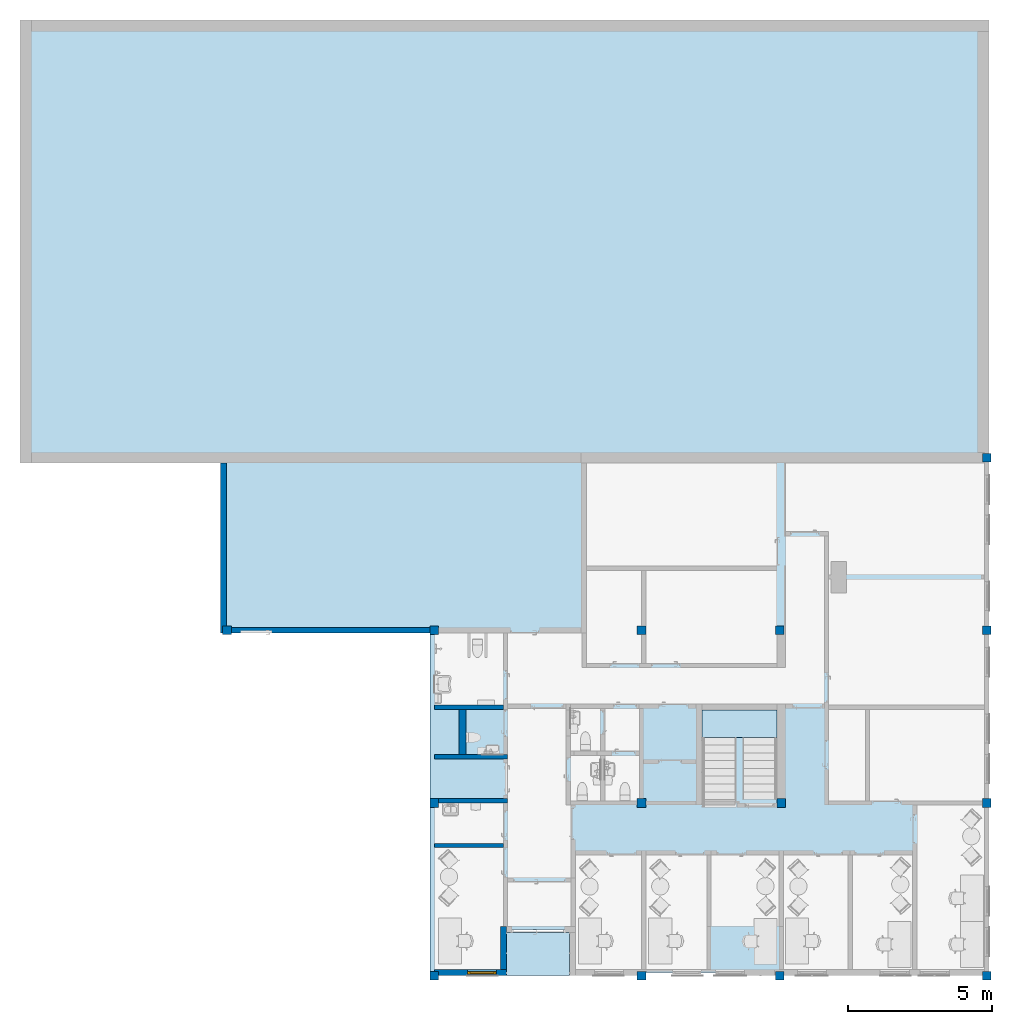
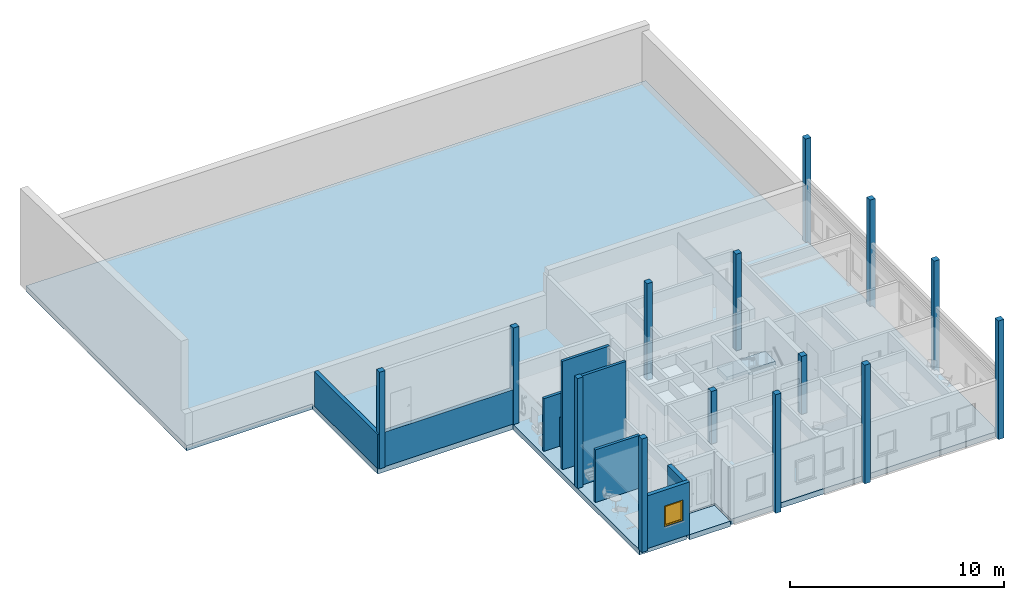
# One storey, part 1 of 58: 14 columns, 9 walls, 3 slabs, 1 window, 3 openings, 1 element without a shape of its own.
"""IFC2X3 building model written with IfcOpenShell, lengths in millimetres."""

import ifcopenshell
import ifcopenshell.guid

model = None  # the IFC model being written
_history = None  # IfcOwnerHistory: only IFC2X3 demands one
_inside = {}  # id of a spatial element -> (the spatial element, [elements in it])
_under = {}  # id of a project, library or spatial element -> (it, [spatial elements below it])
_declared = {}  # id of a project -> (the project, [libraries it declares])
_typed = {}  # id of a type object -> (the type object, [elements of that type])
_made_of = {}  # id of a material, layer set ... -> (it, [elements and type objects made of it])


def new_model(schema):
    """Start an empty IFC model of exactly this schema.

    Asked for "IFC4X3", IfcOpenShell would pick the latest addendum, in which some entities
    have other attributes; the version numbers below select the first issue.
    IFC2X3 requires an IfcOwnerHistory on every rooted entity: one is made here for all.
    """
    global model, _history
    if schema == "IFC4X3":
        model = ifcopenshell.file(schema_version=(4, 3, 0, 0))
    else:
        model = ifcopenshell.file(schema=schema)
    _inside.clear()
    _under.clear()
    _declared.clear()
    _typed.clear()
    _made_of.clear()
    _history = None
    if model.schema == "IFC2X3":
        org = make("IfcOrganization", Name="unknown")
        user = make(
            "IfcPersonAndOrganization",
            ThePerson=make("IfcPerson", FamilyName="unknown"),
            TheOrganization=org,
        )
        app = make(
            "IfcApplication",
            ApplicationDeveloper=org,
            Version="unknown",
            ApplicationFullName="unknown",
            ApplicationIdentifier="unknown",
        )
        _history = make(
            "IfcOwnerHistory",
            OwningUser=user,
            OwningApplication=app,
            ChangeAction="ADDED",
            CreationDate=0,
        )
    return model


def make(cls, **values):
    """One entity of the class cls with the attributes given. An attribute that is None is left unset."""
    return model.create_entity(
        cls, **{name: value for name, value in values.items() if value is not None}
    )


def entity(cls, *values):
    """Any entity or typed value of the class cls, its attributes in the order of the schema. None: left unset."""
    e = model.create_entity(cls)
    for i, value in enumerate(values):
        if value is not None:
            e[i] = value
    return e


def rooted(cls, **values):
    """An entity with a GlobalId (a new one), such as an element, a storey or a relation."""
    return make(cls, GlobalId=ifcopenshell.guid.new(), OwnerHistory=_history, **values)


def si_unit(unit_type, name, prefix=None):
    """IfcSIUnit, for example si_unit("LENGTHUNIT", "METRE", prefix="MILLI")."""
    return make("IfcSIUnit", UnitType=unit_type, Prefix=prefix, Name=name)


def converted_unit(unit_type, name, factor, base, dimensions=None, offset=None):
    """IfcConversionBasedUnit, such as the inch: factor (a typed value) times the base unit."""
    return make(
        "IfcConversionBasedUnit"
        if offset is None
        else "IfcConversionBasedUnitWithOffset",
        ConversionOffset=offset,
        Dimensions=None
        if dimensions is None
        else entity("IfcDimensionalExponents", *dimensions),
        UnitType=unit_type,
        Name=name,
        ConversionFactor=make(
            "IfcMeasureWithUnit", ValueComponent=factor, UnitComponent=base
        ),
    )


def derived_unit(unit_type, elements):
    """IfcDerivedUnit: a product of units, each with its exponent."""
    return make(
        "IfcDerivedUnit",
        Elements=[
            make("IfcDerivedUnitElement", Unit=unit, Exponent=power)
            for unit, power in elements
        ],
        UnitType=unit_type,
    )


def assignment(units):
    """IfcUnitAssignment: the units of a project."""
    return None if units is None else make("IfcUnitAssignment", Units=units)


def point(xyz):
    """IfcCartesianPoint."""
    return None if xyz is None else make("IfcCartesianPoint", Coordinates=xyz)


def direction(xyz):
    """IfcDirection."""
    return None if xyz is None else make("IfcDirection", DirectionRatios=xyz)


def frame(location, z_axis=None, x_axis=None):
    """IfcAxis2Placement3D, a coordinate frame: its origin and axes. An axis left out is left unset."""
    return make(
        "IfcAxis2Placement3D",
        Location=point(location),
        Axis=direction(z_axis),
        RefDirection=direction(x_axis),
    )


def frame_2d(location, x_axis=None):
    """IfcAxis2Placement2D, a coordinate frame in the plane: its origin and x axis."""
    return make(
        "IfcAxis2Placement2D", Location=point(location), RefDirection=direction(x_axis)
    )


def origin():
    """The frame at (0, 0, 0) with its axes left unset."""
    return frame((0.0, 0.0, 0.0))


def origin_2d_with_axis():
    """The frame at (0, 0) in the plane with the x axis (1, 0) written out."""
    return frame_2d((0.0, 0.0), x_axis=(1.0, 0.0))


def place(relative_to, where):
    """IfcLocalPlacement: puts the frame where relative to a parent placement (None: the world)."""
    return make(
        "IfcLocalPlacement", PlacementRelTo=relative_to, RelativePlacement=where
    )


def context(
    kind, dimensions, precision=None, world=None, true_north=None, identifier=None
):
    """IfcGeometricRepresentationContext, for example the 3D "Model" context."""
    return make(
        "IfcGeometricRepresentationContext",
        ContextIdentifier=identifier,
        ContextType=kind,
        CoordinateSpaceDimension=dimensions,
        Precision=precision,
        WorldCoordinateSystem=world,
        TrueNorth=true_north,
    )


def subcontext(parent, identifier, kind, view, scale=None):
    """IfcGeometricRepresentationSubContext, for example "Body" below "Model"."""
    return make(
        "IfcGeometricRepresentationSubContext",
        ContextIdentifier=identifier,
        ContextType=kind,
        ParentContext=parent,
        TargetScale=scale,
        TargetView=view,
    )


def project(units=None, contexts=None):
    """IfcProject with its units and contexts."""
    return rooted(
        "IfcProject",
        Name="project",
        RepresentationContexts=contexts,
        UnitsInContext=assignment(units),
    )


def spatial(cls, under=None, at=None, **own):
    """A site, building, storey or space (cls), placed at a placement, below another one or the project."""
    s = rooted(cls, ObjectPlacement=at, **own)
    if under is not None:
        _under.setdefault(under.id(), (under, []))[1].append(s)
    return s


def polyline(points):
    """IfcPolyline through the points."""
    return make("IfcPolyline", Points=[point(p) for p in points])


def profile(cls, at=None, kind="AREA", **sizes):
    """A parametric profile (cls). Its sizes go by their IFC names, for example OverallWidth=200.0."""
    return make(cls, ProfileType=kind, Position=at, **sizes)


def rectangle(**sizes):
    """IfcRectangleProfileDef."""
    return profile("IfcRectangleProfileDef", **sizes)


def outline(outer, holes=None, kind="AREA"):
    """IfcArbitraryClosedProfileDef: a profile drawn as a closed curve; with holes, ...WithVoids."""
    if holes is None:
        return make("IfcArbitraryClosedProfileDef", ProfileType=kind, OuterCurve=outer)
    return make(
        "IfcArbitraryProfileDefWithVoids",
        ProfileType=kind,
        OuterCurve=outer,
        InnerCurves=holes,
    )


def extrude(swept, where, along, depth):
    """IfcExtrudedAreaSolid: the profile swept, set in the frame where, extruded along a direction by depth."""
    return make(
        "IfcExtrudedAreaSolid",
        SweptArea=swept,
        Position=where,
        ExtrudedDirection=direction(along),
        Depth=depth,
    )


def clip(a, b, op="DIFFERENCE"):
    """IfcBooleanClippingResult: the solid a cut by the half space b."""
    return make(
        "IfcBooleanClippingResult", Operator=op, FirstOperand=a, SecondOperand=b
    )


def bounded_halfspace(plane, agree, where, boundary):
    """IfcPolygonalBoundedHalfSpace: a half space limited to a polygon's prism."""
    return make(
        "IfcPolygonalBoundedHalfSpace",
        BaseSurface=make("IfcPlane", Position=plane),
        AgreementFlag=agree,
        Position=where,
        PolygonalBoundary=boundary,
    )


def faces_of(points, faces, orient=None, outer=None):
    """IfcFace entities. A face is a list of loops; a loop is a list of indices into points, from 0.

    orient and outer hold one flag for each loop. By default every Orientation is true, the
    first loop of a face is its IfcFaceOuterBound and the others are IfcFaceBound.
    """
    made = []
    for i, loops in enumerate(faces):
        bounds = []
        for j, loop in enumerate(loops):
            is_outer = j == 0 if outer is None else outer[i][j]
            bounds.append(
                make(
                    "IfcFaceOuterBound" if is_outer else "IfcFaceBound",
                    Bound=make("IfcPolyLoop", Polygon=[points[k] for k in loop]),
                    Orientation=True if orient is None else orient[i][j],
                )
            )
        made.append(make("IfcFace", Bounds=bounds))
    return made


def faceted_brep(points, faces, orient=None, outer=None, voids=None):
    """IfcFacetedBrep: a solid bounded by flat faces; with voids (closed shells), ...WithVoids."""
    shared = [point(p) for p in points]
    hull = make("IfcClosedShell", CfsFaces=faces_of(shared, faces, orient, outer))
    if voids is None:
        return make("IfcFacetedBrep", Outer=hull)
    return make(
        "IfcFacetedBrepWithVoids",
        Outer=hull,
        Voids=[
            make(cls, CfsFaces=faces_of(shared, fs, o, b)) for cls, fs, o, b in voids
        ],
    )


def shape(context_of_items, identifier, shape_type, items):
    """IfcShapeRepresentation: the items that make up one representation, for example the "Body"."""
    return make(
        "IfcShapeRepresentation",
        ContextOfItems=context_of_items,
        RepresentationIdentifier=identifier,
        RepresentationType=shape_type,
        Items=items,
    )


def source(mapping_origin, context_of_items, identifier, shape_type, items):
    """IfcRepresentationMap: a shape defined once, which mapped items show again and again."""
    return make(
        "IfcRepresentationMap",
        MappingOrigin=mapping_origin,
        MappedRepresentation=shape(context_of_items, identifier, shape_type, items),
    )


def transform(
    local_origin,
    x_axis=None,
    y_axis=None,
    z_axis=None,
    scale=None,
    scale2=None,
    scale3=None,
    uniform=True,
):
    """IfcCartesianTransformationOperator3D, or its non-uniform kind. x_axis, y_axis, z_axis: its Axis1, 2, 3."""
    if uniform:
        return make(
            "IfcCartesianTransformationOperator3D",
            Axis1=direction(x_axis),
            Axis2=direction(y_axis),
            LocalOrigin=point(local_origin),
            Scale=scale,
            Axis3=direction(z_axis),
        )
    return make(
        "IfcCartesianTransformationOperator3DnonUniform",
        Axis1=direction(x_axis),
        Axis2=direction(y_axis),
        LocalOrigin=point(local_origin),
        Scale=scale,
        Axis3=direction(z_axis),
        Scale2=scale2,
        Scale3=scale3,
    )


def mapped(mapping_source, mapping_target):
    """IfcMappedItem: shows the shape of a source again, moved by a transform."""
    return make(
        "IfcMappedItem", MappingSource=mapping_source, MappingTarget=mapping_target
    )


def material(Name=None, Category=None):
    """IfcMaterial."""
    return make("IfcMaterial", Name=Name, Category=Category)


def material_list(materials):
    """IfcMaterialList."""
    return make("IfcMaterialList", Materials=materials)


def layer(
    of_material, thickness, ventilated=None, Name=None, Category=None, Priority=None
):
    """IfcMaterialLayer: one layer of a wall or slab, of a material (None: an air gap)."""
    return make(
        "IfcMaterialLayer",
        Material=of_material,
        LayerThickness=thickness,
        IsVentilated=ventilated,
        Name=Name,
        Category=Category,
        Priority=Priority,
    )


def layer_set(layers, Name=None):
    """IfcMaterialLayerSet."""
    return make("IfcMaterialLayerSet", MaterialLayers=layers, LayerSetName=Name)


def layer_usage(for_layer_set, set_direction, sense, offset, extent=None):
    """IfcMaterialLayerSetUsage: how a layer set lies in its element."""
    return make(
        "IfcMaterialLayerSetUsage",
        ForLayerSet=for_layer_set,
        LayerSetDirection=set_direction,
        DirectionSense=sense,
        OffsetFromReferenceLine=offset,
        ReferenceExtent=extent,
    )


def made_of(thing, what):
    """Note that an element or type object is made of a material, layer set ...; save() writes the relation."""
    if what is not None:
        _made_of.setdefault(what.id(), (what, []))[1].append(thing)
    return thing


def type_object(cls, material=None, **own):
    """A type object (cls), such as IfcWallType, which elements share."""
    return made_of(rooted(cls, **own), material)


def type_shapes(of_type, sources):
    """Give a type object the sources (RepresentationMaps) that its elements show as mapped items."""
    of_type.RepresentationMaps = sources


def element(
    cls,
    number,
    at=None,
    inside=None,
    cuts=None,
    type_object=None,
    material=None,
    context=None,
    identifier="Body",
    shape_type=None,
    held_by="IfcProductDefinitionShape",
    body=None,
    shapes=None,
    **own,
):
    """One element of the class cls, such as IfcWall. Its Tag is "e" and its number.

    at: its placement. inside: the storey or other place that contains it. cuts: it is an
    opening in that element (IfcRelVoidsElement). A single representation is given by context,
    identifier, shape_type and body (its items); several are given by shapes. held_by: the class
    of the entity that holds the representations. save() writes the other relations.
    """
    e = rooted(cls, Tag="e%d" % number, ObjectPlacement=at, **own)
    if body is not None:
        shapes = [shape(context, identifier, shape_type, body)]
    if shapes is not None:
        e.Representation = make(held_by, Representations=shapes)
    if inside is not None:
        _inside.setdefault(inside.id(), (inside, []))[1].append(e)
    if cuts is not None:
        rooted(
            "IfcRelVoidsElement", RelatingBuildingElement=cuts, RelatedOpeningElement=e
        )
    if type_object is not None:
        _typed.setdefault(type_object.id(), (type_object, []))[1].append(e)
    return made_of(e, material)


def fill(opening, filler):
    """IfcRelFillsElement: the door or window that sits in an opening."""
    return rooted(
        "IfcRelFillsElement",
        RelatingOpeningElement=opening,
        RelatedBuildingElement=filler,
    )


def aggregate(whole, parts):
    """IfcRelAggregates: a whole, such as a stair, and the parts it consists of."""
    return rooted("IfcRelAggregates", RelatingObject=whole, RelatedObjects=parts)


def save(model, path):
    """Write the relations noted so far, then the file.

    IfcRelAggregates (storeys below a building ...), IfcRelContainedInSpatialStructure (elements
    in a storey), IfcRelDefinesByType, IfcRelAssociatesMaterial and IfcRelDeclares: one each for
    every whole, place, type object, material and project.
    """
    for whole, parts in _under.values():
        aggregate(whole, parts)
    for where, things in _inside.values():
        rooted(
            "IfcRelContainedInSpatialStructure",
            RelatedElements=things,
            RelatingStructure=where,
        )
    for kind, things in _typed.values():
        rooted("IfcRelDefinesByType", RelatedObjects=things, RelatingType=kind)
    for what, things in _made_of.values():
        rooted("IfcRelAssociatesMaterial", RelatedObjects=things, RelatingMaterial=what)
    for by, libraries in _declared.values():
        rooted("IfcRelDeclares", RelatingContext=by, RelatedDefinitions=libraries)
    model.write(path)


model = new_model("IFC2X3")

# Units and contexts
model_context = context("Model", 3, precision=0.01, world=origin(), true_north=direction((0.7716245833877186, 0.6360782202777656)))
body_context = subcontext(model_context, "Body", "Model", "MODEL_VIEW")
ifc_project = project(units=[si_unit("LENGTHUNIT", "METRE", prefix="MILLI"), si_unit("AREAUNIT", "SQUARE_METRE"), converted_unit("PLANEANGLEUNIT", "DEGREE", entity("IfcPlaneAngleMeasure", 0.017453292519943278), si_unit("PLANEANGLEUNIT", "RADIAN"), dimensions=[0, 0, 0, 0, 0, 0, 0]), derived_unit("THERMALTRANSMITTANCEUNIT", [(si_unit("MASSUNIT", "GRAM", prefix="KILO"), 1), (si_unit("THERMODYNAMICTEMPERATUREUNIT", "KELVIN"), -1), (si_unit("TIMEUNIT", "SECOND"), -3)])], contexts=[model_context])

# Site, building, storey
site_placement = place(None, origin())
site = spatial("IfcSite", under=ifc_project, at=site_placement, Name="Default", CompositionType="ELEMENT")
building_placement = place(site_placement, origin())
building = spatial("IfcBuilding", under=site, at=building_placement, CompositionType="ELEMENT")
storey_placement = place(building_placement, frame((0.0, 0.0, 31140.0)))
storey = spatial("IfcBuildingStorey", under=building, at=storey_placement, Name="PLAN U1", CompositionType="ELEMENT", Elevation=31140.000000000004)

# Columns
ifc_material_1 = material(Name="A_Material_Concrete_Insitu_Beam_Semi-Rough_Grey")
column_type_1 = type_object("IfcColumnType", Name="Søyle - Firkantet:222 Betongsøyle 300x300mm", PredefinedType="COLUMN", material=ifc_material_1)
shared_shape_1 = source(origin(), body_context, "Body", "SweptSolid", [
    extrude(rectangle(XDim=300.0000000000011, YDim=300.0000000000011, at=origin_2d_with_axis()), frame((251517.924446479, 65315.255550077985, 31140.0), z_axis=(0.0, 0.0, 1.0), x_axis=(-1.0, 0.0, 0.0)), (0.0, 0.0, 1.0), 5500.000000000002),
])
type_shapes(column_type_1, [shared_shape_1])
column_1_placement = place(storey_placement, frame((0.0, 0.0, -31140.0)))
element("IfcColumn", 1, at=column_1_placement, inside=storey, type_object=column_type_1, material=ifc_material_1, Name="Søyle - Firkantet:222 Betongsøyle 300x300mm", ObjectType="Søyle - Firkantet:222 Betongsøyle 300x300mm", context=body_context, shape_type="MappedRepresentation", body=[
    mapped(shared_shape_1, transform((0.0, 0.0, 0.0), scale=1.0)),
])
column_type_2 = type_object("IfcColumnType", Name="Søyle - Firkantet:222 Betongsøyle 300x300mm", PredefinedType="COLUMN", material=ifc_material_1)
shared_shape_2 = source(origin(), body_context, "Body", "SweptSolid", [
    extrude(rectangle(XDim=300.00000000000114, YDim=300.00000000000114, at=frame_2d((3.466027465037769e-11, 21.428571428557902), x_axis=(1.0, 0.0))), frame((258717.92444647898, 53336.68412150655, 31140.0), z_axis=(0.0, 0.0, 1.0), x_axis=(-1.0, 0.0, 0.0)), (0.0, 0.0, 1.0), 6459.999999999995),
])
type_shapes(column_type_2, [shared_shape_2])
column_2_placement = place(storey_placement, frame((0.0, 0.0, -31140.0)))
element("IfcColumn", 2, at=column_2_placement, inside=storey, type_object=column_type_2, material=ifc_material_1, Name="Søyle - Firkantet:222 Betongsøyle 300x300mm", ObjectType="Søyle - Firkantet:222 Betongsøyle 300x300mm", context=body_context, shape_type="MappedRepresentation", body=[
    mapped(shared_shape_2, transform((0.0, 0.0, 0.0), scale=1.0)),
])
column_type_3 = type_object("IfcColumnType", Name="Søyle - Firkantet:222 Betongsøyle 300x300mm", PredefinedType="COLUMN", material=ifc_material_1)
shared_shape_3 = source(origin(), body_context, "Body", "SweptSolid", [
    extrude(rectangle(XDim=300.0000000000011, YDim=300.0000000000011, at=origin_2d_with_axis()), frame((265917.924446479, 53315.25555007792, 30840.0), z_axis=(0.0, 0.0, 1.0), x_axis=(-1.0, 0.0, 0.0)), (0.0, 0.0, 1.0), 6759.999999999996),
])
type_shapes(column_type_3, [shared_shape_3])
column_3_placement = place(storey_placement, frame((0.0, 0.0, -31140.0)))
element("IfcColumn", 3, at=column_3_placement, inside=storey, type_object=column_type_3, material=ifc_material_1, Name="Søyle - Firkantet:222 Betongsøyle 300x300mm", ObjectType="Søyle - Firkantet:222 Betongsøyle 300x300mm", context=body_context, shape_type="MappedRepresentation", body=[
    mapped(shared_shape_3, transform((0.0, 0.0, 0.0), scale=1.0)),
])
column_type_4 = type_object("IfcColumnType", Name="Søyle - Firkantet:222 Betongsøyle 300x300mm", PredefinedType="COLUMN", material=ifc_material_1)
shared_shape_4 = source(origin(), body_context, "Body", "SweptSolid", [
    extrude(rectangle(XDim=300.00000000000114, YDim=300.0000000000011, at=frame_2d((-3.466027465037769e-11, 0.0), x_axis=(1.0, 0.0))), frame((270717.92444647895, 53315.25555007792, 30840.0), z_axis=(0.0, 0.0, 1.0), x_axis=(-1.0, 0.0, 0.0)), (0.0, 0.0, 1.0), 6759.999999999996),
])
type_shapes(column_type_4, [shared_shape_4])
column_4_placement = place(storey_placement, frame((0.0, 0.0, -31140.0)))
element("IfcColumn", 4, at=column_4_placement, inside=storey, type_object=column_type_4, material=ifc_material_1, Name="Søyle - Firkantet:222 Betongsøyle 300x300mm", ObjectType="Søyle - Firkantet:222 Betongsøyle 300x300mm", context=body_context, shape_type="MappedRepresentation", body=[
    mapped(shared_shape_4, transform((0.0, 0.0, 0.0), scale=1.0)),
])
column_type_5 = type_object("IfcColumnType", Name="Søyle - Firkantet:222 Betongsøyle 300x300mm", PredefinedType="COLUMN", material=ifc_material_1)
shared_shape_5 = source(origin(), body_context, "Body", "SweptSolid", [
    extrude(rectangle(XDim=300.00000000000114, YDim=300.0000000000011, at=frame_2d((-39.611183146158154, 24.99999999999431), x_axis=(1.0, 0.0))), frame((277878.31326333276, 53340.2555500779, 30840.0), z_axis=(0.0, 0.0, 1.0), x_axis=(-1.0, 0.0, 0.0)), (0.0, 0.0, 1.0), 6759.999999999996),
])
type_shapes(column_type_5, [shared_shape_5])
column_5_placement = place(storey_placement, frame((0.0, 0.0, -31140.0)))
element("IfcColumn", 5, at=column_5_placement, inside=storey, type_object=column_type_5, material=ifc_material_1, Name="Søyle - Firkantet:222 Betongsøyle 300x300mm", ObjectType="Søyle - Firkantet:222 Betongsøyle 300x300mm", context=body_context, shape_type="MappedRepresentation", body=[
    mapped(shared_shape_5, transform((0.0, 0.0, 0.0), scale=1.0)),
])
column_type_6 = type_object("IfcColumnType", Name="Søyle - Firkantet:222 Betongsøyle 300x300mm", PredefinedType="COLUMN", material=ifc_material_1)
shared_shape_6 = source(origin(), body_context, "Body", "SweptSolid", [
    extrude(rectangle(XDim=300.00000000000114, YDim=300.0000000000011, at=frame_2d((37.500000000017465, 18.499999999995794), x_axis=(1.0, 0.0))), frame((258755.424446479, 59333.75555007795, 31140.0), z_axis=(0.0, 0.0, 1.0), x_axis=(-1.0, 0.0, 0.0)), (0.0, 0.0, 1.0), 6259.999999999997),
])
type_shapes(column_type_6, [shared_shape_6])
column_6_placement = place(storey_placement, frame((0.0, 0.0, -31140.0)))
element("IfcColumn", 6, at=column_6_placement, inside=storey, type_object=column_type_6, material=ifc_material_1, Name="Søyle - Firkantet:222 Betongsøyle 300x300mm", ObjectType="Søyle - Firkantet:222 Betongsøyle 300x300mm", context=body_context, shape_type="MappedRepresentation", body=[
    mapped(shared_shape_6, transform((0.0, 0.0, 0.0), scale=1.0)),
])
column_type_7 = type_object("IfcColumnType", Name="Søyle - Firkantet:222 Betongsøyle 300x300mm", PredefinedType="COLUMN", material=ifc_material_1)
shared_shape_7 = source(origin(), body_context, "Body", "SweptSolid", [
    extrude(rectangle(XDim=300.0000000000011, YDim=300.00000000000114, at=frame_2d((0.0, 29.999999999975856), x_axis=(1.0, 0.0))), frame((265917.924446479, 59345.255550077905, 31140.0), z_axis=(0.0, 0.0, 1.0), x_axis=(-1.0, 0.0, 0.0)), (0.0, 0.0, 1.0), 2999.999999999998),
])
type_shapes(column_type_7, [shared_shape_7])
column_7_placement = place(storey_placement, frame((0.0, 0.0, -31140.0)))
element("IfcColumn", 7, at=column_7_placement, inside=storey, type_object=column_type_7, material=ifc_material_1, Name="Søyle - Firkantet:222 Betongsøyle 300x300mm", ObjectType="Søyle - Firkantet:222 Betongsøyle 300x300mm", context=body_context, shape_type="MappedRepresentation", body=[
    mapped(shared_shape_7, transform((0.0, 0.0, 0.0), scale=1.0)),
])
column_type_8 = type_object("IfcColumnType", Name="Søyle - Firkantet:222 Betongsøyle 300x300mm", PredefinedType="COLUMN", material=ifc_material_1)
shared_shape_8 = source(origin(), body_context, "Body", "SweptSolid", [
    extrude(rectangle(XDim=300.0000000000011, YDim=300.0000000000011, at=frame_2d((-25.000000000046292, -25.000000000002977), x_axis=(1.0, 0.0))), frame((270742.92444647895, 59290.255550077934, 31140.0), z_axis=(0.0, 0.0, 1.0), x_axis=(-1.0, 0.0, 0.0)), (0.0, 0.0, 1.0), 3299.999999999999),
])
type_shapes(column_type_8, [shared_shape_8])
column_8_placement = place(storey_placement, frame((0.0, 0.0, -31140.0)))
element("IfcColumn", 8, at=column_8_placement, inside=storey, type_object=column_type_8, material=ifc_material_1, Name="Søyle - Firkantet:222 Betongsøyle 300x300mm", ObjectType="Søyle - Firkantet:222 Betongsøyle 300x300mm", context=body_context, shape_type="MappedRepresentation", body=[
    mapped(shared_shape_8, transform((0.0, 0.0, 0.0), scale=1.0)),
])
column_type_9 = type_object("IfcColumnType", Name="Søyle - Firkantet:222 Betongsøyle 300x300mm", PredefinedType="COLUMN", material=ifc_material_1)
shared_shape_9 = source(origin(), body_context, "Body", "SweptSolid", [
    extrude(rectangle(XDim=300.00000000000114, YDim=300.00000000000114, at=frame_2d((18.75000000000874, -31.24999999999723), x_axis=(1.0, 0.0))), frame((258736.674446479, 65284.005550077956, 31140.0), z_axis=(0.0, 0.0, 1.0), x_axis=(-1.0, 0.0, 0.0)), (0.0, 0.0, 1.0), 5500.000000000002),
])
type_shapes(column_type_9, [shared_shape_9])
column_9_placement = place(storey_placement, frame((0.0, 0.0, -31140.0)))
element("IfcColumn", 9, at=column_9_placement, inside=storey, type_object=column_type_9, material=ifc_material_1, Name="Søyle - Firkantet:222 Betongsøyle 300x300mm", ObjectType="Søyle - Firkantet:222 Betongsøyle 300x300mm", context=body_context, shape_type="MappedRepresentation", body=[
    mapped(shared_shape_9, transform((0.0, 0.0, 0.0), scale=1.0)),
])
column_type_10 = type_object("IfcColumnType", Name="Søyle - Firkantet:222 Betongsøyle 300x300mm", PredefinedType="COLUMN", material=ifc_material_1)
shared_shape_10 = source(origin(), body_context, "Body", "SweptSolid", [
    extrude(rectangle(XDim=300.0000000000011, YDim=300.00000000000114, at=frame_2d((0.0, -8.65441052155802e-12), x_axis=(1.0, 0.0))), frame((265917.924446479, 65315.25555007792, 31140.0), z_axis=(0.0, 0.0, 1.0), x_axis=(-1.0, 0.0, 0.0)), (0.0, 0.0, 1.0), 5500.000000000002),
])
type_shapes(column_type_10, [shared_shape_10])
column_10_placement = place(storey_placement, frame((0.0, 0.0, -31140.0)))
element("IfcColumn", 10, at=column_10_placement, inside=storey, type_object=column_type_10, material=ifc_material_1, Name="Søyle - Firkantet:222 Betongsøyle 300x300mm", ObjectType="Søyle - Firkantet:222 Betongsøyle 300x300mm", context=body_context, shape_type="MappedRepresentation", body=[
    mapped(shared_shape_10, transform((0.0, 0.0, 0.0), scale=1.0)),
])
column_type_11 = type_object("IfcColumnType", Name="Søyle - Firkantet:222 Betongsøyle 300x300mm", PredefinedType="COLUMN", material=ifc_material_1)
shared_shape_11 = source(origin(), body_context, "Body", "SweptSolid", [
    extrude(rectangle(XDim=300.0000000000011, YDim=300.00000000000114, at=frame_2d((-33.33333333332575, -8.65441052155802e-12), x_axis=(1.0, 0.0))), frame((270684.5911131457, 65315.25555007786, 31140.0), z_axis=(0.0, 0.0, 1.0), x_axis=(-1.0, 0.0, 0.0)), (0.0, 0.0, 1.0), 5500.000000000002),
])
type_shapes(column_type_11, [shared_shape_11])
column_11_placement = place(storey_placement, frame((0.0, 0.0, -31140.0)))
element("IfcColumn", 11, at=column_11_placement, inside=storey, type_object=column_type_11, material=ifc_material_1, Name="Søyle - Firkantet:222 Betongsøyle 300x300mm", ObjectType="Søyle - Firkantet:222 Betongsøyle 300x300mm", context=body_context, shape_type="MappedRepresentation", body=[
    mapped(shared_shape_11, transform((0.0, 0.0, 0.0), scale=1.0)),
])
column_type_12 = type_object("IfcColumnType", Name="Søyle - Firkantet:222 Betongsøyle 300x300mm", PredefinedType="COLUMN", material=ifc_material_1)
shared_shape_12 = source(origin(), body_context, "Body", "SweptSolid", [
    extrude(rectangle(XDim=300.0000000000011, YDim=300.0000000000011, at=origin_2d_with_axis()), frame((277917.92444647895, 65315.25555007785, 30840.0), z_axis=(0.0, 0.0, 1.0), x_axis=(-1.0, 0.0, 0.0)), (0.0, 0.0, 1.0), 6359.999999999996),
])
type_shapes(column_type_12, [shared_shape_12])
column_12_placement = place(storey_placement, frame((0.0, 0.0, -31140.0)))
element("IfcColumn", 12, at=column_12_placement, inside=storey, type_object=column_type_12, material=ifc_material_1, Name="Søyle - Firkantet:222 Betongsøyle 300x300mm", ObjectType="Søyle - Firkantet:222 Betongsøyle 300x300mm", context=body_context, shape_type="MappedRepresentation", body=[
    mapped(shared_shape_12, transform((0.0, 0.0, 0.0), scale=1.0)),
])
column_type_13 = type_object("IfcColumnType", Name="Søyle - Firkantet:222 Betongsøyle 300x300mm", PredefinedType="COLUMN", material=ifc_material_1)
shared_shape_13 = source(origin(), body_context, "Body", "SweptSolid", [
    extrude(rectangle(XDim=300.0000000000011, YDim=300.0000000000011, at=origin_2d_with_axis()), frame((277917.92444647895, 59315.25555007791, 30840.0), z_axis=(0.0, 0.0, 1.0), x_axis=(-1.0, 0.0, 0.0)), (0.0, 0.0, 1.0), 6519.999999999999),
])
type_shapes(column_type_13, [shared_shape_13])
column_13_placement = place(storey_placement, frame((0.0, 0.0, -31140.0)))
element("IfcColumn", 13, at=column_13_placement, inside=storey, type_object=column_type_13, material=ifc_material_1, Name="Søyle - Firkantet:222 Betongsøyle 300x300mm", ObjectType="Søyle - Firkantet:222 Betongsøyle 300x300mm", context=body_context, shape_type="MappedRepresentation", body=[
    mapped(shared_shape_13, transform((0.0, 0.0, 0.0), scale=1.0)),
])
column_type_14 = type_object("IfcColumnType", Name="Søyle - Firkantet:222 Betongsøyle 300x300mm", PredefinedType="COLUMN", material=ifc_material_1)
shared_shape_14 = source(origin(), body_context, "Body", "SweptSolid", [
    extrude(rectangle(XDim=300.0000000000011, YDim=300.0000000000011, at=origin_2d_with_axis()), frame((277917.92444647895, 71315.25555007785, 30840.0), z_axis=(0.0, 0.0, 1.0), x_axis=(-1.0, 0.0, 0.0)), (0.0, 0.0, 1.0), 6199.999999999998),
])
type_shapes(column_type_14, [shared_shape_14])
column_14_placement = place(storey_placement, frame((0.0, 0.0, -31140.0)))
element("IfcColumn", 14, at=column_14_placement, inside=storey, type_object=column_type_14, material=ifc_material_1, Name="Søyle - Firkantet:222 Betongsøyle 300x300mm", ObjectType="Søyle - Firkantet:222 Betongsøyle 300x300mm", context=body_context, shape_type="MappedRepresentation", body=[
    mapped(shared_shape_14, transform((0.0, 0.0, 0.0), scale=1.0)),
])

# Slabs
ifc_material_2 = material(Name="VINYL EMINENT UNISENSE 928")
ifc_layer_1 = layer(ifc_material_2, 5.0)
ifc_material_3 = material(Name="Generell Gulv")
ifc_layer_2 = layer(ifc_material_3, 295.0)
ifc_layer_set_1 = layer_set([ifc_layer_1, ifc_layer_2], Name="Floor:250 Generisk dekke 300 mm")
ifc_layer_usage_1 = layer_usage(ifc_layer_set_1, "AXIS3", "POSITIVE", 0.0)
slab_type_1 = type_object("IfcSlabType", Name="Floor:250 Generisk dekke 300 mm", PredefinedType="FLOOR", material=ifc_layer_set_1)
slab_1_placement = place(storey_placement, origin())
element("IfcSlab", 15, at=slab_1_placement, inside=storey, type_object=slab_type_1, material=ifc_layer_usage_1, Name="Floor:250 Generisk dekke 300 mm", ObjectType="Floor:250 Generisk dekke 300 mm", PredefinedType="FLOOR", context=body_context, shape_type="SweptSolid", body=[
    extrude(outline(polyline([(7214.298012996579, -14965.171062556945), (22217.50993501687, -14965.171062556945), (22217.50993501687, 18421.07728050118), (-10680.701987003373, 18421.07728050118), (-10680.701987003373, 4027.744379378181), (-9185.701987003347, 4027.744379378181), (-9185.701987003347, 1628.7443793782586), (-10679.701987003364, 1628.7443793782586), (-10679.701987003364, -916.1974883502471), (1114.2980129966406, -916.1974883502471), (1114.2980129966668, -8196.19748835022), (7214.298012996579, -8196.19748835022), (7214.298012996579, -14965.171062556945)])), frame((259489.18006710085, 64100.95753708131, 0.0), z_axis=(0.0, 0.0, -1.0), x_axis=(0.0, 1.0, 0.0)), (0.0, 0.0, 1.0), 300.0000000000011),
])
ifc_layer_usage_2 = layer_usage(ifc_layer_set_1, "AXIS3", "POSITIVE", 0.0)
slab_2_placement = place(storey_placement, origin())
element("IfcSlab", 16, at=slab_2_placement, inside=storey, type_object=slab_type_1, material=ifc_layer_usage_2, Name="Floor:250 Generisk dekke 300 mm", ObjectType="Floor:250 Generisk dekke 300 mm", PredefinedType="FLOOR", context=body_context, shape_type="SweptSolid", body=[
    extrude(rectangle(XDim=1493.9999999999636, YDim=2187.9999999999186, at=frame_2d((4.320099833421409e-12, 0.0), x_axis=(1.0, 0.0))), frame((262317.92444647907, 54062.25555007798, 0.0), z_axis=(0.0, 0.0, -1.0), x_axis=(0.0, 1.0, 0.0)), (0.0, 0.0, 1.0), 300.0000000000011),
])

# Stair, slab
type_product = type_object("IfcTypeProduct", Name="Cast-In-Place Stair:Cast-In-Place Stair")
stair_placement = place(storey_placement, origin())
stair = element("IfcStair", 17, at=stair_placement, inside=storey, type_object=type_product, Name="Cast-In-Place Stair:Stair", ObjectType="Cast-In-Place Stair:Cast-In-Place Stair", ShapeType="HALF_TURN_STAIR")
ifc_material_4 = material(Name="<Unnamed>")
slab_type_2 = type_object("IfcSlabType", Name="Monolithic Landing:300 mm Thickness", PredefinedType="LANDING")
slab_3_placement = place(stair_placement, frame((268017.924446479, 61595.25555007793, 0.0)))
slab_3 = element("IfcSlab", 18, at=slab_3_placement, type_object=slab_type_2, material=ifc_material_4, Name="Cast-In-Place Stair:Stair:4303045 Landing 1", ObjectType="Monolithic Landing:300 mm Thickness", PredefinedType="LANDING", context=body_context, shape_type="Brep", body=[
    faceted_brep([(1400.0, 0.0, 1563.157894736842), (2600.0, 0.0, 1563.157894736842), (2600.0, 80.89754074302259, 1563.157894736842), (2600.0, 959.2460894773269, 1563.157894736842), (0.0, 959.2460894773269, 1563.157894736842), (0.0, 189.10245925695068, 1563.157894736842), (0.0, 0.0, 1563.157894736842), (1200.0, 0.0, 1563.157894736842), (2600.0, 959.2460894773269, 1263.157894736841), (0.0, 959.2460894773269, 1263.157894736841), (0.0, 189.10245925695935, 1263.1578947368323), (0.0, 0.0, 1384.8027515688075), (1200.0, 0.0, 1384.8027515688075), (1200.0, 0.0, 1263.157894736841), (1400.0, 0.0, 1263.157894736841), (1200.0, 189.10245925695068, 1263.157894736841), (2600.0, 80.89754074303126, 1263.157894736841), (1400.0, 80.89754074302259, 1263.157894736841), (2600.0, 0.0, 1211.1185410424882), (1400.0, 0.0, 1211.1185410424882), (2600.0, 0.0, 1389.4736842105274)], [[[0, 1, 2, 3, 4, 5, 6, 7]], [[4, 3, 8, 9]], [[4, 9, 10, 11, 6, 5]], [[0, 7, 12, 13, 14]], [[13, 15, 10, 9, 8, 16, 17, 14]], [[17, 16, 18, 19]], [[14, 17, 19]], [[10, 15, 12, 11]], [[1, 20, 18, 16, 8, 3, 2]], [[1, 0, 14, 19, 18, 20]], [[7, 6, 11, 12]], [[15, 13, 12]]]),
])
aggregate(stair, [slab_3])

# Wall, openings, window
ifc_material_5 = material(Name="Beige Fasadeplater")
ifc_layer_3 = layer(ifc_material_5, 10.0)
ifc_material_6 = material(Name="Eksist. vegg")
ifc_layer_4 = layer(ifc_material_6, 190.00000000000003)
ifc_material_7 = material(Name="Gips")
ifc_layer_5 = layer(ifc_material_7, 12.0)
ifc_layer_set_2 = layer_set([ifc_layer_3, ifc_layer_4, ifc_layer_5], Name="Basic Wall:230 Eksist. yttervegg 200 mm")
ifc_layer_usage_3 = layer_usage(ifc_layer_set_2, "AXIS2", "POSITIVE", -106.0)
wall_type_1 = type_object("IfcWallType", Name="Basic Wall:230 Eksist. yttervegg 200 mm", PredefinedType="STANDARD", material=ifc_layer_set_2)
wall_1_placement = place(storey_placement, frame((258717.92444647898, 53421.255550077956, 0.0)))
wall_1 = element("IfcWallStandardCase", 19, at=wall_1_placement, inside=storey, type_object=wall_type_1, material=ifc_layer_usage_3, Name="Basic Wall:230 Eksist. yttervegg 200 mm", ObjectType="Basic Wall:230 Eksist. yttervegg 200 mm", context=body_context, shape_type="Clipping", body=[
    clip(clip(clip(extrude(rectangle(XDim=2506.0000000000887, YDim=212.00000000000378, at=frame_2d((1253.0000000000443, -2.5579538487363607e-13), x_axis=(-1.0, 0.0))), origin(), (0.0, 0.0, 1.0), 2999.9999999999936), bounded_halfspace(frame((2506.0, -106.0, 3000.0), z_axis=(0.0, 0.0, -1.0), x_axis=(0.0, 1.0, 0.0)), True, frame((2506.0, -106.0, 3000.0)), polyline([(0.0, 0.0), (0.0, 212.0), (-212.0, 212.0), (-2506.0, 212.0), (-2506.0, 150.0), (-2356.0, 150.0), (-2356.0, 0.0), (0.0, 0.0)]))), bounded_halfspace(frame((150.0, 44.0, 3000.0), z_axis=(1.0, 0.0, 0.0), x_axis=(0.0, 0.0, -1.0)), True, frame((150.0, 44.0, 3000.0), z_axis=(1.0, 0.0, 0.0), x_axis=(0.0, 0.0, -1.0)), polyline([(0.0, 0.0), (0.0, -45720.0), (914400.0, -45720.0), (914400.0, 0.0), (0.0, 0.0)]))), bounded_halfspace(frame((150.0, 44.0, 0.0), z_axis=(0.0, 1.0, 0.0), x_axis=(0.0, 0.0, -1.0)), True, frame((150.0, 44.0, 0.0), z_axis=(0.0, 1.0, 0.0), x_axis=(0.0, 0.0, -1.0)), polyline([(0.0, 0.0), (0.0, 45720.0), (-914400.0, 45720.0), (-914400.0, 0.0), (0.0, 0.0)]))),
])
opening_1_placement = place(wall_1_placement, frame((1149.6320407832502, -106.0, 890.0)))
opening_1 = element("IfcOpeningElement", 20, at=opening_1_placement, cuts=wall_1, Name="234-Åpningsbart:10x12M Eks.:1", ObjectType="Opening", context=body_context, shape_type="SweptSolid", body=[
    extrude(rectangle(XDim=1209.9999999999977, YDim=1010.0000000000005, at=frame_2d((604.9999999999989, 505.0000000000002), x_axis=(1.0, 0.0))), frame((0.0, 0.0, 0.0), z_axis=(0.0, 1.0, 0.0), x_axis=(0.0, 0.0, 1.0)), (0.0, 0.0, 1.0), 212.0),
])
opening_2_placement = place(wall_1_placement, frame((-258717.92444647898, -53421.255550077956, 0.0)))
element("IfcOpeningElement", 21, at=opening_2_placement, cuts=wall_1, Name="Basic Wall:230 Eksist. yttervegg 200 mm", ObjectType="Opening", context=body_context, shape_type="SweptSolid", body=[
    extrude(rectangle(XDim=1209.9999999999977, YDim=1009.9999999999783, at=frame_2d((1.7337242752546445e-11, 2.1600499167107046e-12), x_axis=(0.0, 1.0))), frame((260372.55648726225, 52003.25555007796, 1495.0), z_axis=(0.0, 1.0, 0.0), x_axis=(-1.0, 0.0, 0.0)), (0.0, 0.0, 1.0), 3048.0),
])
ifc_material_8 = material(Name="Vinduskarm")
ifc_material_9 = material(Name="NO_Glass")
ifc_material_list = material_list([ifc_material_8, ifc_material_9])
window_style = type_object("IfcWindowStyle", Name="234-Åpningsbart:10x12M Eks.", ConstructionType="NOTDEFINED", OperationType="NOTDEFINED", ParameterTakesPrecedence=False, Sizeable=False, material=ifc_material_list)
shared_shape_15 = source(origin(), body_context, "Body", "SweptSolid", [
    extrude(outline(polyline([(-555.0, -455.0), (555.0, -455.0), (555.0, 455.0), (-555.0, 455.0), (-555.0, -455.0)]), holes=[polyline([(515.0, -415.0), (-515.0, -415.0), (-515.0, 415.0), (515.0, 415.0), (515.0, -415.0)])]), frame((505.0, 62.0, 605.0), z_axis=(0.0, 1.0, 0.0), x_axis=(0.0, 0.0, 1.0)), (0.0, 0.0, 1.0), 100.0),
    extrude(rectangle(XDim=25.0, YDim=830.0000000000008, at=origin_2d_with_axis()), frame((505.0, 124.5000000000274, 90.0), z_axis=(0.0, 0.0, 1.0), x_axis=(0.0, 1.0, 0.0)), (0.0, 0.0, 1.0), 1030.0000000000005),
    extrude(outline(polyline([(-595.0, -495.0), (595.0, -495.0), (595.0, 495.0), (-595.0, 495.0), (-595.0, -495.0)]), holes=[polyline([(555.0, -455.0), (-555.0, -455.0), (-555.0, 455.0), (555.0, 455.0), (555.0, -455.0)])]), frame((505.0, 62.0, 605.0), z_axis=(0.0, 1.0, 0.0), x_axis=(0.0, 0.0, 1.0)), (0.0, 0.0, 1.0), 100.0),
])
type_shapes(window_style, [shared_shape_15])
window_placement = place(opening_1_placement, frame((1010.0, 212.0, 0.0), z_axis=(0.0, 0.0, 1.0), x_axis=(-1.0, 0.0, 0.0)))
window = element("IfcWindow", 22, at=window_placement, inside=storey, type_object=window_style, material=ifc_material_list, Name="234-Åpningsbart:10x12M Eks.", ObjectType="234-Åpningsbart:10x12M Eks.", OverallHeight=1209.9999999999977, OverallWidth=1010.000000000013, context=body_context, shape_type="MappedRepresentation", body=[
    mapped(shared_shape_15, transform((0.0, 0.0, 0.0), scale=1.0)),
])
fill(opening_1, window)

# Walls
ifc_layer_usage_4 = layer_usage(ifc_layer_set_2, "AXIS2", "POSITIVE", -106.0)
wall_2_placement = place(storey_placement, frame((261117.9244464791, 53527.25555007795, 0.0), z_axis=(0.0, 0.0, 1.0), x_axis=(0.0, 1.0, 0.0)))
element("IfcWallStandardCase", 23, at=wall_2_placement, inside=storey, type_object=wall_type_1, material=ifc_layer_usage_4, Name="Basic Wall:230 Eksist. yttervegg 200 mm", ObjectType="Basic Wall:230 Eksist. yttervegg 200 mm", context=body_context, shape_type="SweptSolid", body=[
    extrude(rectangle(XDim=1494.0000000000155, YDim=212.00000000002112, at=frame_2d((747.0000000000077, 0.0), x_axis=(-1.0, 0.0))), origin(), (0.0, 0.0, 1.0), 2999.9999999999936),
])
ifc_layer_6 = layer(ifc_material_6, 150.0)
ifc_layer_set_3 = layer_set([ifc_layer_6], Name="Basic Wall:240 Eksist. Innervegg 150 mm")
ifc_layer_usage_5 = layer_usage(ifc_layer_set_3, "AXIS2", "NEGATIVE", 75.0)
wall_type_2 = type_object("IfcWallType", Name="Basic Wall:240 Eksist. Innervegg 150 mm", PredefinedType="STANDARD", material=ifc_layer_set_3)
wall_3_placement = place(storey_placement, frame((261117.9244464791, 62645.72307172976, 0.0), z_axis=(0.0, 0.0, 1.0), x_axis=(-1.0, 0.0, 0.0)))
element("IfcWallStandardCase", 24, at=wall_3_placement, inside=storey, type_object=wall_type_2, material=ifc_layer_usage_5, Name="Basic Wall:240 Eksist. Innervegg 150 mm", ObjectType="Basic Wall:240 Eksist. Innervegg 150 mm", context=body_context, shape_type="SweptSolid", body=[
    extrude(rectangle(XDim=2400.000000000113, YDim=150.00000000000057, at=frame_2d((1200.0000000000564, -2.1316282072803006e-13), x_axis=(-1.0, 0.0))), origin(), (0.0, 0.0, 1.0), 2999.9999999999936),
])
ifc_layer_usage_6 = layer_usage(ifc_layer_set_3, "AXIS2", "NEGATIVE", 75.0)
wall_4_placement = place(storey_placement, frame((261117.9244464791, 57840.25555007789, 0.0), z_axis=(0.0, 0.0, 1.0), x_axis=(-1.0, 0.0, 0.0)))
element("IfcWallStandardCase", 25, at=wall_4_placement, inside=storey, type_object=wall_type_2, material=ifc_layer_usage_6, Name="Basic Wall:240 Eksist. Innervegg 150 mm", ObjectType="Basic Wall:240 Eksist. Innervegg 150 mm", context=body_context, shape_type="SweptSolid", body=[
    extrude(rectangle(XDim=2400.000000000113, YDim=150.00000000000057, at=frame_2d((1200.0000000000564, -2.1316282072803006e-13), x_axis=(-1.0, 0.0))), origin(), (0.0, 0.0, 1.0), 2999.9999999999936),
])
ifc_layer_7 = layer(ifc_material_6, 200.0)
ifc_layer_set_4 = layer_set([ifc_layer_7], Name="Basic Wall:240 Eksist. innervegg 200 mm")
ifc_layer_usage_7 = layer_usage(ifc_layer_set_4, "AXIS2", "NEGATIVE", 100.0)
wall_type_3 = type_object("IfcWallType", Name="Basic Wall:240 Eksist. innervegg 200 mm", PredefinedType="STANDARD", material=ifc_layer_set_4)
wall_5_placement = place(storey_placement, frame((251392.9825787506, 71135.25555007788, 0.0), z_axis=(0.0, 0.0, 1.0), x_axis=(0.0, -1.0, 0.0)))
element("IfcWallStandardCase", 26, at=wall_5_placement, inside=storey, type_object=wall_type_3, material=ifc_layer_usage_7, Name="Basic Wall:240 Eksist. innervegg 200 mm", ObjectType="Basic Wall:240 Eksist. innervegg 200 mm", context=body_context, shape_type="Clipping", body=[
    clip(extrude(rectangle(XDim=5919.99999999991, YDim=200.00000000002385, at=frame_2d((2959.999999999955, 0.0), x_axis=(-1.0, 0.0))), origin(), (0.0, 0.0, 1.0), 1959.9999999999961), bounded_halfspace(frame((0.0, -100.0, 1960.0), z_axis=(0.0, 0.0, -1.0), x_axis=(0.0, 1.0, 0.0)), True, frame((0.0, -100.0, 1960.0)), polyline([(0.0, 0.0), (5920.0, 0.0), (5920.0, 200.0), (5720.0, 200.0), (0.0, 200.0), (0.0, 0.0)]))),
])

# Wall, opening
ifc_layer_usage_8 = layer_usage(ifc_layer_set_4, "AXIS2", "NEGATIVE", 100.0)
wall_6_placement = place(storey_placement, frame((251492.9825787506, 65315.25555007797, 0.0)))
wall_6 = element("IfcWallStandardCase", 27, at=wall_6_placement, inside=storey, type_object=wall_type_3, material=ifc_layer_usage_8, Name="Basic Wall:240 Eksist. innervegg 200 mm", ObjectType="Basic Wall:240 Eksist. innervegg 200 mm", context=body_context, shape_type="SweptSolid", body=[
    extrude(rectangle(XDim=7074.941867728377, YDim=200.0000000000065, at=frame_2d((3537.4709338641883, -2.7711166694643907e-13), x_axis=(-1.0, 0.0))), origin(), (0.0, 0.0, 1.0), 1959.9999999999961),
])
opening_3_placement = place(wall_6_placement, origin())
element("IfcOpeningElement", 28, at=opening_3_placement, cuts=wall_6, Name="Basic Wall:240 Eksist. innervegg 200 mm", ObjectType="Opening", context=body_context, shape_type="SweptSolid", body=[
    extrude(rectangle(XDim=2099.999999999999, YDim=1109.9999999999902, at=origin_2d_with_axis()), frame((1045.0, -1424.0, 3010.0), z_axis=(0.0, 1.0, 0.0), x_axis=(0.0, 0.0, 1.0)), (0.0, 0.0, 1.0), 3048.0),
])

# Walls
ifc_layer_8 = layer(ifc_material_7, 12.5)
ifc_layer_9 = layer(ifc_material_7, 12.5)
ifc_material_10 = material(Name="Stender isolert")
ifc_layer_10 = layer(ifc_material_10, 200.0)
ifc_layer_11 = layer(ifc_material_7, 12.5)
ifc_layer_12 = layer(ifc_material_7, 12.5)
ifc_layer_set_5 = layer_set([ifc_layer_8, ifc_layer_9, ifc_layer_10, ifc_layer_11, ifc_layer_12], Name="Basic Wall:242 IV0X Innervegg 250 mm")
ifc_layer_usage_9 = layer_usage(ifc_layer_set_5, "AXIS2", "NEGATIVE", 125.00000000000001)
wall_type_4 = type_object("IfcWallType", Name="Basic Wall:242 IV0X Innervegg 250 mm", PredefinedType="STANDARD", material=ifc_layer_set_5)
wall_7_placement = place(storey_placement, frame((259692.9244464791, 62570.723071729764, 0.0), z_axis=(0.0, 0.0, 1.0), x_axis=(0.0, -1.0, 0.0)))
element("IfcWallStandardCase", 29, at=wall_7_placement, inside=storey, type_object=wall_type_4, material=ifc_layer_usage_9, Name="Basic Wall:242 IV0X Innervegg 250 mm", ObjectType="Basic Wall:242 IV0X Innervegg 250 mm", context=body_context, shape_type="SweptSolid", body=[
    extrude(rectangle(XDim=1576.2214321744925, YDim=249.99999999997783, at=frame_2d((788.1107160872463, 0.0), x_axis=(-1.0, 0.0))), origin(), (0.0, 0.0, 1.0), 1659.9999999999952),
])
ifc_material_11 = material(Name="Betong plasstøpt")
ifc_layer_13 = layer(ifc_material_11, 150.0)
ifc_layer_set_6 = layer_set([ifc_layer_13], Name="Basic Wall:240 Innervegg betong 150 mm")
ifc_layer_usage_10 = layer_usage(ifc_layer_set_6, "AXIS2", "NEGATIVE", 75.0)
wall_type_5 = type_object("IfcWallType", Name="Basic Wall:240 Innervegg betong 150 mm", PredefinedType="STANDARD", material=ifc_layer_set_6)
wall_8_placement = place(storey_placement, frame((261267.9244464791, 59389.255550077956, 0.0), z_axis=(0.0, 0.0, 1.0), x_axis=(-1.0, 0.0, 0.0)))
element("IfcWallStandardCase", 30, at=wall_8_placement, inside=storey, type_object=wall_type_5, material=ifc_layer_usage_10, Name="Basic Wall:240 Innervegg betong 150 mm", ObjectType="Basic Wall:240 Innervegg betong 150 mm", context=body_context, shape_type="Clipping", body=[
    clip(clip(extrude(rectangle(XDim=2400.000000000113, YDim=150.00000000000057, at=frame_2d((1200.0000000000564, -5.044853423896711e-13), x_axis=(-1.0, 0.0))), origin(), (0.0, 0.0, 1.0), 6211.591518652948), bounded_halfspace(frame((0.0, 75.0, 6211.591518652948), z_axis=(0.0, -0.026176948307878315, 0.9996573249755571), x_axis=(1.0, 0.0, 0.0)), False, frame((0.0, 75.0, 6211.591518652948)), polyline([(0.0, 0.0), (0.0, -150.0), (150.0, -150.0), (2400.0, -150.0), (2400.0, 0.0), (0.0, 0.0)]))), bounded_halfspace(frame((2400.0, -75.0, 6207.663630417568), z_axis=(-1.0, 0.0, 0.0), x_axis=(0.0, 0.0, -1.0)), True, frame((2400.0, -75.0, 6207.663630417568), z_axis=(-1.0, 0.0, 0.0), x_axis=(0.0, 0.0, -1.0)), polyline([(0.0, 0.0), (-1197.2203341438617, -45720.0), (1892095.8745512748, -45720.0), (1892095.8745512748, 0.0), (0.0, 0.0)]))),
])
ifc_layer_usage_11 = layer_usage(ifc_layer_set_6, "AXIS2", "NEGATIVE", 75.0)
wall_9_placement = place(storey_placement, frame((261267.9244464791, 60919.50163955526, 0.0), z_axis=(0.0, 0.0, 1.0), x_axis=(-1.0, 0.0, 0.0)))
element("IfcWallStandardCase", 31, at=wall_9_placement, inside=storey, type_object=wall_type_5, material=ifc_layer_usage_11, Name="Basic Wall:240 Innervegg betong 150 mm", ObjectType="Basic Wall:240 Innervegg betong 150 mm", context=body_context, shape_type="Clipping", body=[
    clip(extrude(rectangle(XDim=2550.0000000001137, YDim=150.00000000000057, at=frame_2d((1275.0000000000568, -2.6290081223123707e-13), x_axis=(-1.0, 0.0))), origin(), (0.0, 0.0, 1.0), 6171.520614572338), bounded_halfspace(frame((0.0, -75.0, 6167.592726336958), z_axis=(0.0, -0.026176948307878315, 0.9996573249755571), x_axis=(1.0, 0.0, 0.0)), False, frame((0.0, -75.0, 6167.592726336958)), polyline([(0.0, 0.0), (2550.0, 0.0), (2550.0, 150.0), (150.0, 150.0), (0.0, 150.0), (0.0, 0.0)]))),
])

save(model, "model.ifc")
